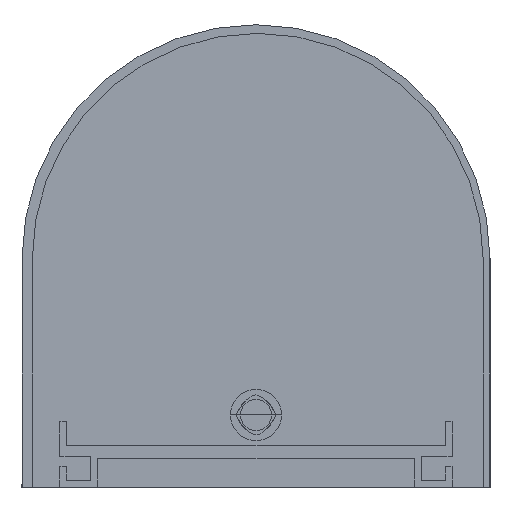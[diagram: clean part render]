
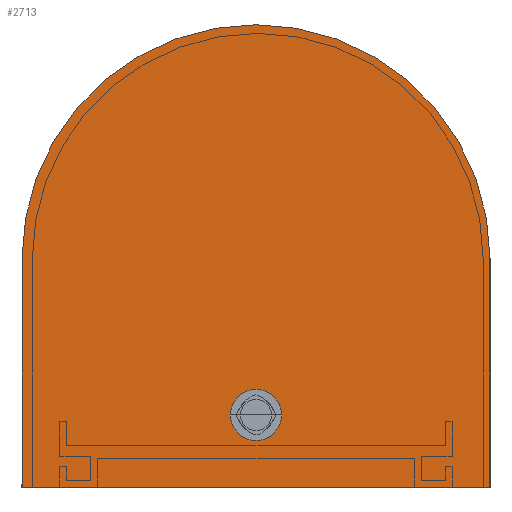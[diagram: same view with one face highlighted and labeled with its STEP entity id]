
A CAD part, left-side view. The second image highlights one B-rep face of the part: STEP entity #2713.
In plain terms, the highlighted planar face has unit normal (-1, 0, 0) as drawn and (0, -1, 0) by its records, which use the part's own axes.
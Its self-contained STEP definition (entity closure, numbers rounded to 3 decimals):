
#142=PLANE('',#3007);
#430=LINE('',#4824,#662);
#433=LINE('',#4830,#665);
#436=LINE('',#4835,#668);
#662=VECTOR('',#3797,304.8);
#665=VECTOR('',#3802,304.8);
#668=VECTOR('',#3807,304.8);
#824=FACE_OUTER_BOUND('',#1000,.T.);
#1000=EDGE_LOOP('',(#2553,#2554,#2555,#2556));
#1136=CIRCLE('',#3002,34.);
#1401=VERTEX_POINT('',#4814);
#1402=VERTEX_POINT('',#4815);
#1405=VERTEX_POINT('',#4823);
#1407=VERTEX_POINT('',#4829);
#1781=EDGE_CURVE('',#1401,#1402,#1136,.T.);
#1785=EDGE_CURVE('',#1405,#1401,#430,.T.);
#1788=EDGE_CURVE('',#1407,#1405,#433,.T.);
#1791=EDGE_CURVE('',#1402,#1407,#436,.T.);
#2553=ORIENTED_EDGE('',*,*,#1791,.T.);
#2554=ORIENTED_EDGE('',*,*,#1788,.T.);
#2555=ORIENTED_EDGE('',*,*,#1785,.T.);
#2556=ORIENTED_EDGE('',*,*,#1781,.T.);
#2713=ADVANCED_FACE('',(#824),#142,.T.);
#3002=AXIS2_PLACEMENT_3D('',#4816,#3789,#3790);
#3007=AXIS2_PLACEMENT_3D('',#4837,#3809,#3810);
#3789=DIRECTION('center_axis',(0.,-1.,0.));
#3790=DIRECTION('ref_axis',(1.,0.,0.));
#3797=DIRECTION('',(0.,0.,1.));
#3802=DIRECTION('',(1.,0.,0.));
#3807=DIRECTION('',(0.,0.,-1.));
#3809=DIRECTION('center_axis',(0.,-1.,0.));
#3810=DIRECTION('ref_axis',(0.,0.,-1.));
#4814=CARTESIAN_POINT('',(34.,-600.,33.2));
#4815=CARTESIAN_POINT('',(-34.,-600.,33.2));
#4816=CARTESIAN_POINT('Origin',(0.,-600.,33.2));
#4823=CARTESIAN_POINT('',(34.,-600.,0.));
#4824=CARTESIAN_POINT('',(34.,-600.,0.));
#4829=CARTESIAN_POINT('',(-34.,-600.,0.));
#4830=CARTESIAN_POINT('',(-34.,-600.,0.));
#4835=CARTESIAN_POINT('',(-34.,-600.,33.2));
#4837=CARTESIAN_POINT('Origin',(-34.,-600.,0.));
